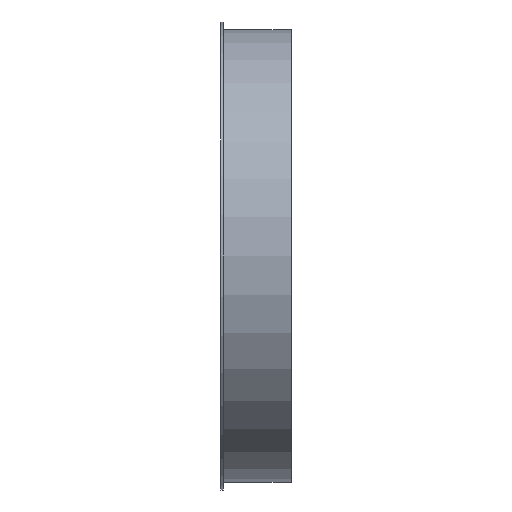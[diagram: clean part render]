
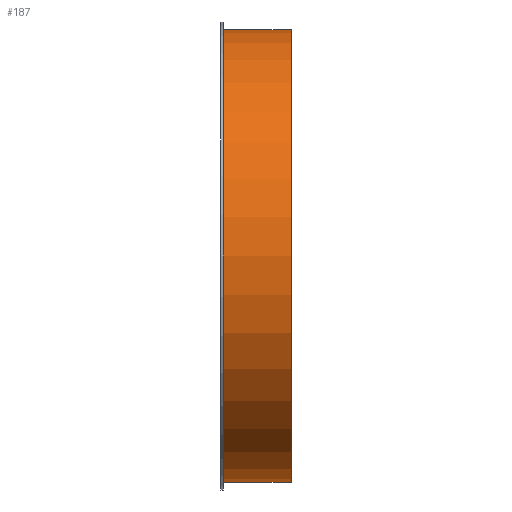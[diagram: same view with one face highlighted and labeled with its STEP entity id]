
A CAD part, front view. The second image highlights one B-rep face of the part: STEP entity #187.
In plain terms, the highlighted cylindrical face has radius 176.5 mm (diameter 353 mm), a full revolution.
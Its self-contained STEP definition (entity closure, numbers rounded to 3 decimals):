
#112=CARTESIAN_POINT('',(-15.,0.,0.0));
#113=VERTEX_POINT('',#112);
#114=CARTESIAN_POINT('',(-15.,176.5,0.0));
#115=DIRECTION('',(-1.0,0.0,0.0));
#116=DIRECTION('',(0.0,-1.0,0.0));
#117=AXIS2_PLACEMENT_3D('',#114,#115,#116);
#118=CIRCLE('',#117,176.5);
#119=EDGE_CURVE('',#113,#113,#118,.T.);
#161=CARTESIAN_POINT('',(38.0,0.,0.0));
#162=VERTEX_POINT('',#161);
#163=CARTESIAN_POINT('',(38.,176.5,0.0));
#164=DIRECTION('',(-1.0,0.0,0.0));
#165=DIRECTION('',(0.0,-1.0,0.0));
#166=AXIS2_PLACEMENT_3D('',#163,#164,#165);
#167=CIRCLE('',#166,176.5);
#168=EDGE_CURVE('',#162,#162,#167,.T.);
#176=CARTESIAN_POINT('',(11.5,176.5,0.0));
#177=DIRECTION('',(-1.0,0.,0.0));
#178=DIRECTION('',(0.0,-1.0,0.0));
#179=AXIS2_PLACEMENT_3D('',#176,#177,#178);
#180=CYLINDRICAL_SURFACE('',#179,176.5);
#181=ORIENTED_EDGE('',*,*,#119,.F.);
#182=EDGE_LOOP('',(#181));
#183=FACE_OUTER_BOUND('',#182,.T.);
#184=ORIENTED_EDGE('',*,*,#168,.T.);
#185=EDGE_LOOP('',(#184));
#186=FACE_BOUND('',#185,.T.);
#187=ADVANCED_FACE('',(#183,#186),#180,.T.);
